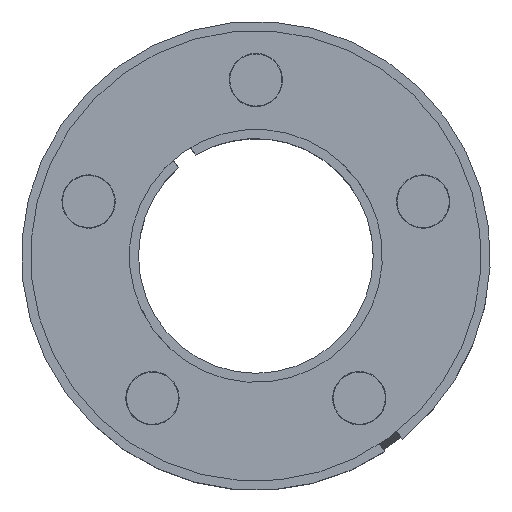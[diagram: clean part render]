
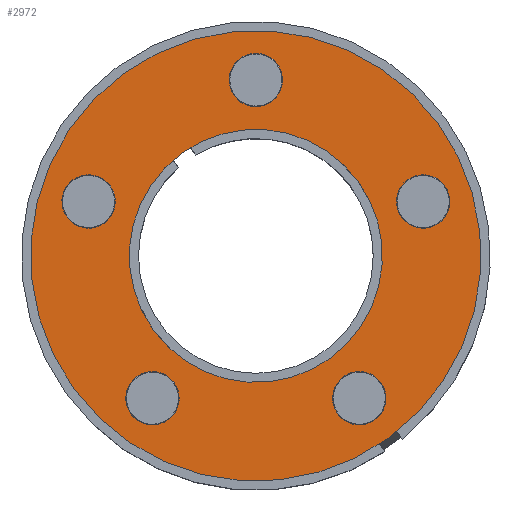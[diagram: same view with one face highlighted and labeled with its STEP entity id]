
A CAD part, top view. The second image highlights one B-rep face of the part: STEP entity #2972.
In plain terms, the highlighted planar face has unit normal (0, 0, 1).
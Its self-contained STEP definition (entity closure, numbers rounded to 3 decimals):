
#54 = CARTESIAN_POINT ( 'NONE',  ( -17.715, 3.629, 18.013 ) ) ;
#96 = EDGE_CURVE ( 'NONE', #160, #3847, #2330, .T. ) ;
#106 = CARTESIAN_POINT ( 'NONE',  ( 0., 0., 18.013 ) ) ;
#160 = VERTEX_POINT ( 'NONE', #3762 ) ;
#288 = EDGE_CURVE ( 'NONE', #1570, #5247, #1101, .T. ) ;
#453 = VERTEX_POINT ( 'NONE', #5037 ) ;
#654 = VERTEX_POINT ( 'NONE', #5209 ) ;
#758 = DIRECTION ( 'NONE',  ( 0.809, 0.588, 0. ) ) ;
#764 = EDGE_CURVE ( 'NONE', #3211, #6036, #6554, .T. ) ;
#808 = CARTESIAN_POINT ( 'NONE',  ( -13.67, 6.568, 18.013 ) ) ;
#906 = EDGE_CURVE ( 'NONE', #6748, #654, #5243, .T. ) ;
#975 = CARTESIAN_POINT ( 'NONE',  ( 2.023, 17.969, 18.013 ) ) ;
#988 = ORIENTED_EDGE ( 'NONE', *, *, #764, .T. ) ;
#1030 = CARTESIAN_POINT ( 'NONE',  ( -15.692, 5.099, 18.013 ) ) ;
#1039 = DIRECTION ( 'NONE',  ( 0., 0., -1. ) ) ;
#1101 = CIRCLE ( 'NONE', #8075, 11.868 ) ;
#1260 = CARTESIAN_POINT ( 'NONE',  ( 0., 0., 18.013 ) ) ;
#1272 = CIRCLE ( 'NONE', #3400, 2.5 ) ;
#1306 = ORIENTED_EDGE ( 'NONE', *, *, #288, .T. ) ;
#1310 = ORIENTED_EDGE ( 'NONE', *, *, #7422, .T. ) ;
#1355 = EDGE_LOOP ( 'NONE', ( #4488, #4716 ) ) ;
#1398 = DIRECTION ( 'NONE',  ( 0., 0., -1. ) ) ;
#1407 = FACE_BOUND ( 'NONE', #2502, .T. ) ;
#1420 = AXIS2_PLACEMENT_3D ( 'NONE', #6311, #2443, #6968 ) ;
#1510 = CARTESIAN_POINT ( 'NONE',  ( 0., 0., 18.013 ) ) ;
#1570 = VERTEX_POINT ( 'NONE', #4958 ) ;
#1671 = CARTESIAN_POINT ( 'NONE',  ( 17.095, 12.42, 18.013 ) ) ;
#1679 = DIRECTION ( 'NONE',  ( 0.809, 0.588, 0. ) ) ;
#1913 = DIRECTION ( 'NONE',  ( 0.809, 0.588, 0. ) ) ;
#2106 = AXIS2_PLACEMENT_3D ( 'NONE', #5302, #1398, #5949 ) ;
#2141 = DIRECTION ( 'NONE',  ( 0., 0., -1. ) ) ;
#2174 = DIRECTION ( 'NONE',  ( 0.809, 0.588, 0. ) ) ;
#2235 = ORIENTED_EDGE ( 'NONE', *, *, #4373, .T. ) ;
#2304 = CIRCLE ( 'NONE', #6881, 2.5 ) ;
#2330 = CIRCLE ( 'NONE', #4763, 2.5 ) ;
#2339 = CARTESIAN_POINT ( 'NONE',  ( 0., 16.5, 18.013 ) ) ;
#2365 = EDGE_CURVE ( 'NONE', #7676, #4031, #1272, .T. ) ;
#2376 = EDGE_CURVE ( 'NONE', #3157, #8317, #7279, .T. ) ;
#2393 = ORIENTED_EDGE ( 'NONE', *, *, #6633, .T. ) ;
#2443 = DIRECTION ( 'NONE',  ( 0., 0., -1. ) ) ;
#2455 = DIRECTION ( 'NONE',  ( 0., 0., -1. ) ) ;
#2502 = EDGE_LOOP ( 'NONE', ( #988, #7073 ) ) ;
#2762 = CIRCLE ( 'NONE', #6275, 11.868 ) ;
#2768 = DIRECTION ( 'NONE',  ( 0., 0., -1. ) ) ;
#2775 = DIRECTION ( 'NONE',  ( 0., 0., -1. ) ) ;
#2945 = CARTESIAN_POINT ( 'NONE',  ( -9.698, -13.349, 18.013 ) ) ;
#2972 = ADVANCED_FACE ( 'NONE', ( #8326, #1407, #6588, #3171, #4873, #8122, #6391 ), #5928, .F. ) ;
#2998 = DIRECTION ( 'NONE',  ( 0.809, 0.588, 0. ) ) ;
#3152 = CARTESIAN_POINT ( 'NONE',  ( 11.721, -11.879, 18.013 ) ) ;
#3157 = VERTEX_POINT ( 'NONE', #7431 ) ;
#3171 = FACE_BOUND ( 'NONE', #7461, .T. ) ;
#3211 = VERTEX_POINT ( 'NONE', #975 ) ;
#3400 = AXIS2_PLACEMENT_3D ( 'NONE', #6318, #2455, #6981 ) ;
#3541 = AXIS2_PLACEMENT_3D ( 'NONE', #6626, #2768, #7293 ) ;
#3600 = DIRECTION ( 'NONE',  ( 0.809, 0.588, 0. ) ) ;
#3762 = CARTESIAN_POINT ( 'NONE',  ( 7.676, -14.818, 18.013 ) ) ;
#3798 = EDGE_CURVE ( 'NONE', #453, #6242, #4539, .T. ) ;
#3799 = DIRECTION ( 'NONE',  ( 0., 0., -1. ) ) ;
#3847 = VERTEX_POINT ( 'NONE', #3152 ) ;
#4017 = ORIENTED_EDGE ( 'NONE', *, *, #2365, .T. ) ;
#4031 = VERTEX_POINT ( 'NONE', #54 ) ;
#4257 = CIRCLE ( 'NONE', #2106, 2.5 ) ;
#4373 = EDGE_CURVE ( 'NONE', #654, #6748, #2304, .T. ) ;
#4421 = EDGE_LOOP ( 'NONE', ( #4017, #1310 ) ) ;
#4488 = ORIENTED_EDGE ( 'NONE', *, *, #7702, .F. ) ;
#4503 = AXIS2_PLACEMENT_3D ( 'NONE', #1510, #6056, #2174 ) ;
#4538 = CIRCLE ( 'NONE', #6723, 2.5 ) ;
#4539 = CIRCLE ( 'NONE', #1420, 2.5 ) ;
#4610 = EDGE_LOOP ( 'NONE', ( #2393, #1306 ) ) ;
#4645 = DIRECTION ( 'NONE',  ( 0., 0., -1. ) ) ;
#4716 = ORIENTED_EDGE ( 'NONE', *, *, #2376, .F. ) ;
#4763 = AXIS2_PLACEMENT_3D ( 'NONE', #5726, #5706, #5671 ) ;
#4873 = FACE_BOUND ( 'NONE', #7867, .T. ) ;
#4934 = CARTESIAN_POINT ( 'NONE',  ( 9.698, -13.349, 18.013 ) ) ;
#4958 = CARTESIAN_POINT ( 'NONE',  ( -9.601, -6.976, 18.013 ) ) ;
#4984 = ORIENTED_EDGE ( 'NONE', *, *, #96, .T. ) ;
#5025 = EDGE_CURVE ( 'NONE', #6036, #3211, #8362, .T. ) ;
#5037 = CARTESIAN_POINT ( 'NONE',  ( 13.67, 3.629, 18.013 ) ) ;
#5152 = CIRCLE ( 'NONE', #7883, 2.5 ) ;
#5209 = CARTESIAN_POINT ( 'NONE',  ( -7.676, -11.879, 18.013 ) ) ;
#5243 = CIRCLE ( 'NONE', #5972, 2.5 ) ;
#5247 = VERTEX_POINT ( 'NONE', #7042 ) ;
#5302 = CARTESIAN_POINT ( 'NONE',  ( 15.692, 5.099, 18.013 ) ) ;
#5303 = CARTESIAN_POINT ( 'NONE',  ( 17.715, 6.568, 18.013 ) ) ;
#5307 = ORIENTED_EDGE ( 'NONE', *, *, #5941, .T. ) ;
#5313 = ORIENTED_EDGE ( 'NONE', *, *, #3798, .T. ) ;
#5544 = CIRCLE ( 'NONE', #4503, 21.13 ) ;
#5580 = DIRECTION ( 'NONE',  ( 0., 0., -1. ) ) ;
#5599 = DIRECTION ( 'NONE',  ( 0.809, 0.588, 0. ) ) ;
#5620 = ORIENTED_EDGE ( 'NONE', *, *, #906, .T. ) ;
#5671 = DIRECTION ( 'NONE',  ( 0.809, 0.588, 0. ) ) ;
#5706 = DIRECTION ( 'NONE',  ( 0., 0., -1. ) ) ;
#5726 = CARTESIAN_POINT ( 'NONE',  ( 9.698, -13.349, 18.013 ) ) ;
#5806 = DIRECTION ( 'NONE',  ( 0., 0., -1. ) ) ;
#5889 = CARTESIAN_POINT ( 'NONE',  ( -11.721, -14.818, 18.013 ) ) ;
#5928 = PLANE ( 'NONE',  #6058 ) ;
#5937 = EDGE_LOOP ( 'NONE', ( #6638, #5313 ) ) ;
#5941 = EDGE_CURVE ( 'NONE', #3847, #160, #5152, .T. ) ;
#5949 = DIRECTION ( 'NONE',  ( 0.809, 0.588, 0. ) ) ;
#5967 = AXIS2_PLACEMENT_3D ( 'NONE', #2339, #6868, #2998 ) ;
#5972 = AXIS2_PLACEMENT_3D ( 'NONE', #2945, #7466, #3600 ) ;
#6026 = CARTESIAN_POINT ( 'NONE',  ( -9.698, -13.349, 18.013 ) ) ;
#6036 = VERTEX_POINT ( 'NONE', #6321 ) ;
#6056 = DIRECTION ( 'NONE',  ( 0., 0., -1. ) ) ;
#6058 = AXIS2_PLACEMENT_3D ( 'NONE', #106, #4645, #758 ) ;
#6242 = VERTEX_POINT ( 'NONE', #5303 ) ;
#6275 = AXIS2_PLACEMENT_3D ( 'NONE', #1260, #5806, #1913 ) ;
#6311 = CARTESIAN_POINT ( 'NONE',  ( 15.692, 5.099, 18.013 ) ) ;
#6318 = CARTESIAN_POINT ( 'NONE',  ( -15.692, 5.099, 18.013 ) ) ;
#6321 = CARTESIAN_POINT ( 'NONE',  ( -2.023, 15.031, 18.013 ) ) ;
#6391 = FACE_OUTER_BOUND ( 'NONE', #1355, .T. ) ;
#6418 = AXIS2_PLACEMENT_3D ( 'NONE', #7657, #3799, #8308 ) ;
#6554 = CIRCLE ( 'NONE', #3541, 2.5 ) ;
#6588 = FACE_BOUND ( 'NONE', #4421, .T. ) ;
#6626 = CARTESIAN_POINT ( 'NONE',  ( 0., 16.5, 18.013 ) ) ;
#6633 = EDGE_CURVE ( 'NONE', #5247, #1570, #2762, .T. ) ;
#6634 = CARTESIAN_POINT ( 'NONE',  ( 0., 0., 18.013 ) ) ;
#6638 = ORIENTED_EDGE ( 'NONE', *, *, #7177, .T. ) ;
#6663 = DIRECTION ( 'NONE',  ( 0.809, 0.588, 0. ) ) ;
#6723 = AXIS2_PLACEMENT_3D ( 'NONE', #1030, #5580, #1679 ) ;
#6748 = VERTEX_POINT ( 'NONE', #5889 ) ;
#6868 = DIRECTION ( 'NONE',  ( 0., 0., -1. ) ) ;
#6881 = AXIS2_PLACEMENT_3D ( 'NONE', #6026, #2141, #6663 ) ;
#6968 = DIRECTION ( 'NONE',  ( 0.809, 0.588, 0. ) ) ;
#6981 = DIRECTION ( 'NONE',  ( 0.809, 0.588, 0. ) ) ;
#7042 = CARTESIAN_POINT ( 'NONE',  ( 9.601, 6.976, 18.013 ) ) ;
#7073 = ORIENTED_EDGE ( 'NONE', *, *, #5025, .T. ) ;
#7177 = EDGE_CURVE ( 'NONE', #6242, #453, #4257, .T. ) ;
#7279 = CIRCLE ( 'NONE', #6418, 21.13 ) ;
#7293 = DIRECTION ( 'NONE',  ( 0.809, 0.588, 0. ) ) ;
#7301 = DIRECTION ( 'NONE',  ( 0.809, 0.588, 0. ) ) ;
#7422 = EDGE_CURVE ( 'NONE', #4031, #7676, #4538, .T. ) ;
#7431 = CARTESIAN_POINT ( 'NONE',  ( -17.095, -12.42, 18.013 ) ) ;
#7461 = EDGE_LOOP ( 'NONE', ( #2235, #5620 ) ) ;
#7466 = DIRECTION ( 'NONE',  ( 0., 0., -1. ) ) ;
#7657 = CARTESIAN_POINT ( 'NONE',  ( 0., 0., 18.013 ) ) ;
#7676 = VERTEX_POINT ( 'NONE', #808 ) ;
#7702 = EDGE_CURVE ( 'NONE', #8317, #3157, #5544, .T. ) ;
#7867 = EDGE_LOOP ( 'NONE', ( #5307, #4984 ) ) ;
#7883 = AXIS2_PLACEMENT_3D ( 'NONE', #4934, #1039, #5599 ) ;
#8075 = AXIS2_PLACEMENT_3D ( 'NONE', #6634, #2775, #7301 ) ;
#8122 = FACE_BOUND ( 'NONE', #4610, .T. ) ;
#8308 = DIRECTION ( 'NONE',  ( 0.809, 0.588, 0. ) ) ;
#8317 = VERTEX_POINT ( 'NONE', #1671 ) ;
#8326 = FACE_BOUND ( 'NONE', #5937, .T. ) ;
#8362 = CIRCLE ( 'NONE', #5967, 2.5 ) ;
